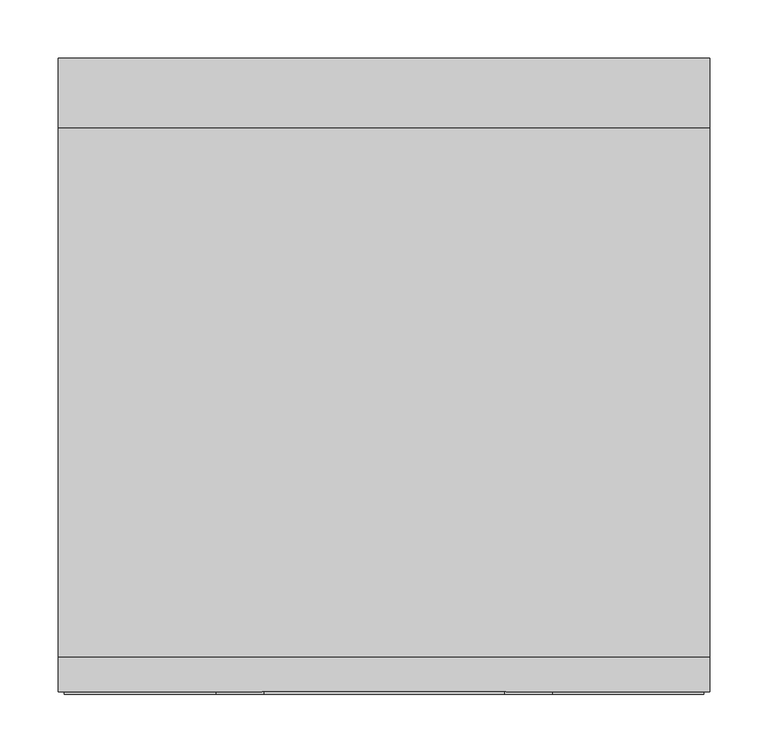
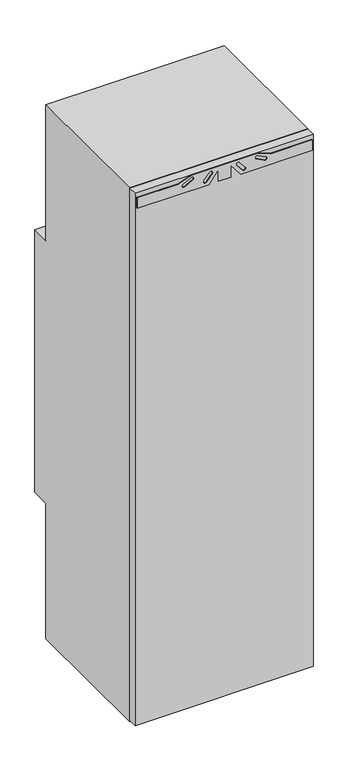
"""IFC4 building model written with IfcOpenShell, lengths in millimetres: proxy geometry, Installations électriques - HAFELE Appliances Refrigerator SIKB3550 - Built-in-Fridge_534.16.130."""

from ifc_helpers import new_model, si_unit, point, frame, frame_2d, origin, origin_with_axes, place, context, project, spatial, polyline, circle_curve, trimmed, segment, composite_curve, outline, extrude, source, transform, mapped, element, save


def generic_models_f095d0f3(model_context):
    return source(origin(), model_context, "Body", "SweptSolid", [
        extrude(outline(polyline([(1737.8490575, 5.0), (1737.8490575, 229.5), (1777.1347718, 259.5), (1737.8490575, 259.5), (1737.8490575, 299.5), (1777.1347718, 299.5), (1737.8490575, 329.5), (1737.8490575, 554.0), (1772.8490575, 554.0), (1772.8490575, 424.0), (1787.8490575, 382.7878387), (1787.8490575, 176.2121613), (1772.8490575, 135.0), (1772.8490575, 5.0), (1737.8490575, 5.0)]), holes=[composite_curve([segment(trimmed(circle_curve(frame_2d((1773.7234545, 236.7742652)), 5.1895151), [point((1777.0668175, 232.8052615))], [point((1770.3800915, 240.743269))], True, "CARTESIAN"), True, "CONTINUOUS"), segment(polyline([(1770.3800915, 240.743269), (1748.9062634, 222.6543964)]), True, "CONTINUOUS"), segment(trimmed(circle_curve(frame_2d((1752.2496264, 218.6853927)), 5.1895151), [point((1748.9062634, 222.6543964))], [point((1755.5929894, 214.716389))], True, "CARTESIAN"), True, "CONTINUOUS"), segment(polyline([(1755.5929894, 214.716389), (1777.0668175, 232.8052615)]), True, "CONTINUOUS")], self_intersect=False), composite_curve([segment(trimmed(circle_curve(frame_2d((1775.5336652, 176.9159107)), 5.1895151), [point((1780.1021617, 174.4542229))], [point((1770.9651687, 179.3775984))], True, "CARTESIAN"), True, "CONTINUOUS"), segment(polyline([(1770.9651687, 179.3775984), (1757.6464964, 154.6602853)]), True, "CONTINUOUS"), segment(trimmed(circle_curve(frame_2d((1762.2149928, 152.1985975)), 5.1895151), [point((1757.6464964, 154.6602853))], [point((1766.7834893, 149.7369097))], True, "CARTESIAN"), True, "CONTINUOUS"), segment(polyline([(1766.7834893, 149.7369097), (1780.1021617, 174.4542229)]), True, "CONTINUOUS")], self_intersect=False), composite_curve([segment(trimmed(circle_curve(frame_2d((1752.2496264, 340.3146073)), 5.1895151), [point((1755.5929894, 344.283611))], [point((1748.9062634, 336.3456036))], True, "CARTESIAN"), True, "CONTINUOUS"), segment(polyline([(1748.9062634, 336.3456036), (1770.3800915, 318.256731)]), True, "CONTINUOUS"), segment(trimmed(circle_curve(frame_2d((1773.7234545, 322.2257348)), 5.1895151), [point((1770.3800915, 318.256731))], [point((1777.0668175, 326.1947385))], True, "CARTESIAN"), True, "CONTINUOUS"), segment(polyline([(1777.0668175, 326.1947385), (1755.5929894, 344.283611)]), True, "CONTINUOUS")], self_intersect=False), composite_curve([segment(trimmed(circle_curve(frame_2d((1762.2149928, 406.8014025)), 5.1895151), [point((1766.7834893, 409.2630903))], [point((1757.6464964, 404.3397147))], True, "CARTESIAN"), True, "CONTINUOUS"), segment(polyline([(1757.6464964, 404.3397147), (1770.9651687, 379.6224016)]), True, "CONTINUOUS"), segment(trimmed(circle_curve(frame_2d((1775.5336652, 382.0840893)), 5.1895151), [point((1770.9651687, 379.6224016))], [point((1780.1021617, 384.5457771))], True, "CARTESIAN"), True, "CONTINUOUS"), segment(polyline([(1780.1021617, 384.5457771), (1766.7834893, 409.2630903)]), True, "CONTINUOUS")], self_intersect=False)]), frame((0.0, 0.0, 0.0), z_axis=(0.0, 1.0, 0.0), x_axis=(0.0, 0.0, 1.0)), (0.0, 0.0, 1.0), 2.0),
        extrude(outline(polyline([(559.0, 2.0), (0.0, 2.0), (0.0, 31.5), (559.0, 31.5), (559.0, 2.0)])), frame((0.0, 0.0, 23.8490575), z_axis=(0.0, 0.0, 1.0), x_axis=(1.0, 0.0, 0.0)), (0.0, 0.0, 1.0), 1764.0),
        extrude(outline(polyline([(486.0, 1787.8490575), (486.0, 1337.8490575), (546.0, 1337.8490575), (546.0, 467.8490575), (486.0, 467.8490575), (486.0, 17.8490575), (32.0, 17.8490575), (32.0, 1787.8490575), (486.0, 1787.8490575)])), frame((0.0, 0.0, 0.0), z_axis=(1.0, 0.0, 0.0), x_axis=(0.0, 1.0, 0.0)), (0.0, 0.0, 1.0), 559.0),
        extrude(outline(composite_curve([segment(trimmed(circle_curve(frame_2d((94.4703824, 158.8761666)), 7.5), [point((101.9703824, 158.8761666))], [point((86.9703824, 158.8761666))], False, "CARTESIAN"), True, "CONTINUOUS"), segment(trimmed(circle_curve(frame_2d((94.4703824, 158.8761666)), 7.5), [point((86.9703824, 158.8761666))], [point((101.9703824, 158.8761666))], False, "CARTESIAN"), True, "CONTINUOUS")], self_intersect=False)), origin_with_axes(), (0.0, 0.0, 1.0), 167.8490575),
    ])


if __name__ == "__main__":
    model = new_model("IFC4")
    model_context = context("Model", 3, world=origin())
    ifc_project = project(units=[si_unit("LENGTHUNIT", "METRE", prefix="MILLI")], contexts=[model_context])
    site = spatial("IfcSite", under=ifc_project)
    building = spatial("IfcBuilding", under=site)
    placement = place(None, origin())
    generic_models_shape = generic_models_f095d0f3(model_context)
    element("IfcBuildingElementProxy", 1, Name="Installations électriques - HAFELE Appliances Refrigerator SIKB3550 - Built-in-Fridge_534.16.130", ObjectType="Installations électriques - HAFELE Appliances Refrigerator SIKB3550 - Built-in-Fridge_534.16.130", at=placement, inside=building, context=model_context, shape_type="MappedRepresentation", body=[
        mapped(generic_models_shape, transform((0.0, 0.0, 0.0), x_axis=(1.0, 0.0, 0.0), y_axis=(0.0, 1.0, 0.0), z_axis=(0.0, 0.0, 1.0))),
    ])
    save(model, "model.ifc")
